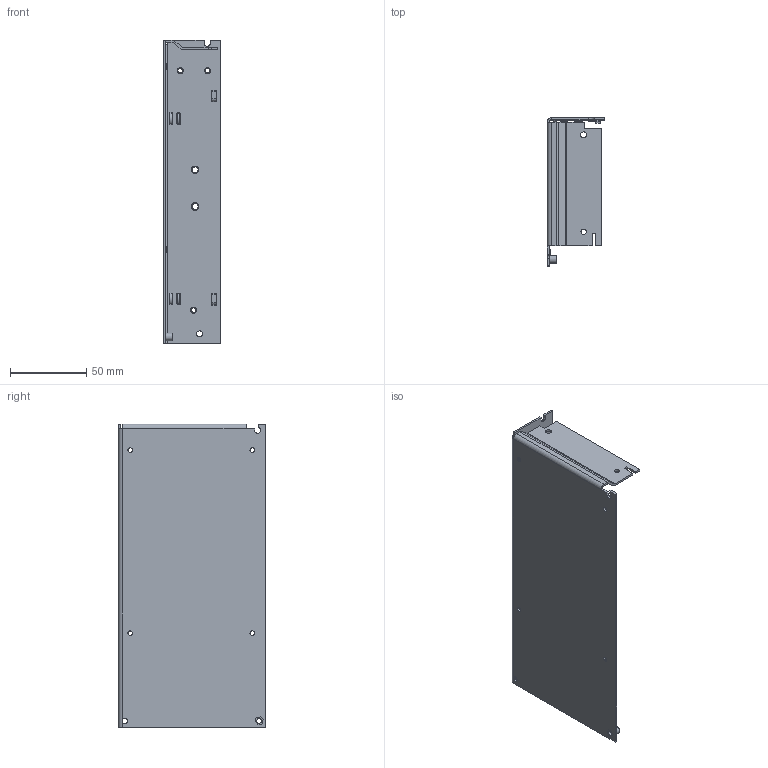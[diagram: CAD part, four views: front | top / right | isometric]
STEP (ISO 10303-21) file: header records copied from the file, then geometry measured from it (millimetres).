
FILE_DESCRIPTION(/* description */ (''),/* implementation_level */ '2;1');
FILE_NAME(/* name */ 'F:\file_Step\Vỏ 2.stp',/* time_stamp */ '2019-10-03T16:24:46+07:00',/* author */ ('thanh'),/* organization */ (''),/* preprocessor_version */ 'ST-DEVELOPER v18',/* originating_system */ 'Autodesk Inventor 2020',/* authorisation */ '');
FILE_SCHEMA (('AUTOMOTIVE_DESIGN { 1 0 10303 214 3 1 1 }'));
Length unit declared in the file: millimetre
Products named in the file (1): vỏ 1
Bounding box: 38.01 x 97 x 199 mm (x, y, z)
Volume: 40734.9 mm3; surface area: 59881.5 mm2
Topology: 1 solids, 1 shells, 190 faces, 536 edges, 340 vertices
Faces by surface type: plane 80, cylinder 61, torus 49
Full cylindrical faces by diameter (mm): 3 x8, 3.5 x1, 4 x11, 5 x3
Entity records: 6598 total; most frequent: CARTESIAN_POINT 1208, DIRECTION 1128, ORIENTED_EDGE 1072, EDGE_CURVE 536, AXIS2_PLACEMENT_3D 434, VERTEX_POINT 340, LINE 260, VECTOR 260
